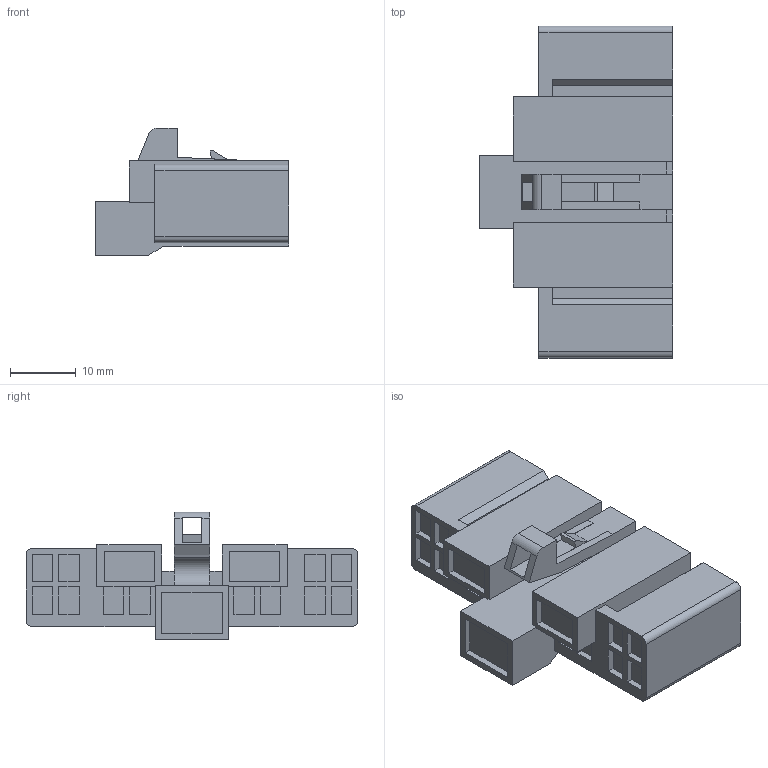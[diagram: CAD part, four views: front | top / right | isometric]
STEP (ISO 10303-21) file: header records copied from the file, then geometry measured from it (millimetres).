
FILE_DESCRIPTION(('CATIA V5 STEP Exchange','CAx-IF Rec.Pracs.--- Model Styling and Organization---1.2---2011-12-15'),'2;1');
FILE_NAME('N:\C-DAM_MyDesk\ENV\900093\6245-0173.stp','2015-01-21T06:03:32+00:00',('none'),('none'),'CATIA Version 5-6 Release 2012 SP4 HF74','CATIA V5 STEP AP214','none');
FILE_SCHEMA(('AUTOMOTIVE_DESIGN { 1 0 10303 214 1 1 1 1 }'));
Length unit declared in the file: millimetre
Products named in the file (1): 6245-0173
Bounding box: 29.5 x 50.6 x 19.5 mm (x, y, z)
Volume: 12481.3 mm3; surface area: 5976.9 mm2
Topology: 1 solids, 1 shells, 225 faces, 595 edges, 396 vertices
Faces by surface type: plane 217, cylinder 8
Entity records: 6538 total; most frequent: ORIENTED_EDGE 1190, CARTESIAN_POINT 1171, DIRECTION 918, EDGE_CURVE 595, VECTOR 570, LINE 570, VERTEX_POINT 396, EDGE_LOOP 251
